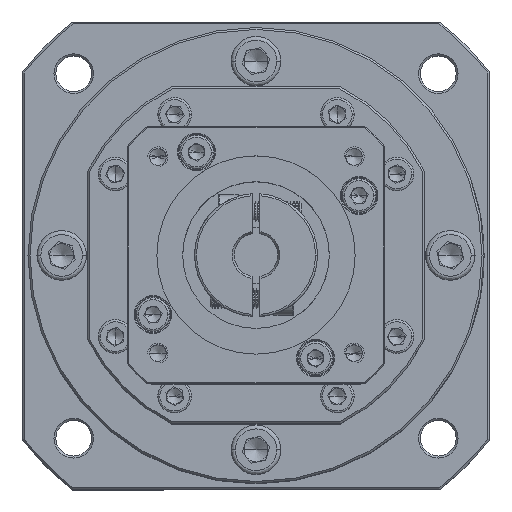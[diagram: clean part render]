
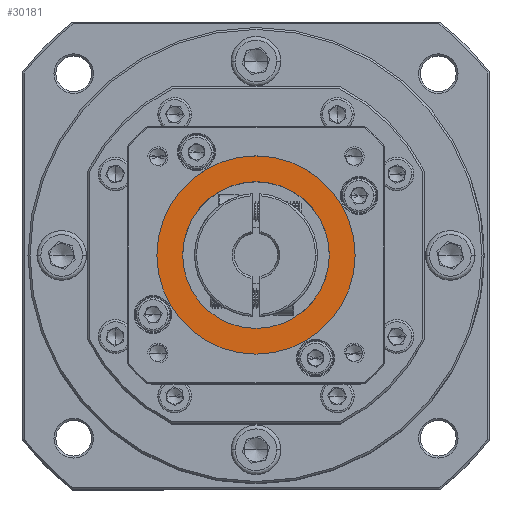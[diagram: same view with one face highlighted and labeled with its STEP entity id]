
A CAD part, top view. The second image highlights one B-rep face of the part: STEP entity #30181.
In plain terms, the highlighted planar face has unit normal (0, 0, 1).
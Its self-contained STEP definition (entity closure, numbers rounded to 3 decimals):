
#31 = CIRCLE ( 'NONE', #89420, 25. ) ;
#4277 = CARTESIAN_POINT ( 'NONE',  ( -63.336, 32.367, 10.795 ) ) ;
#6012 = CARTESIAN_POINT ( 'NONE',  ( -63.336, 32.367, 10.795 ) ) ;
#6287 = VERTEX_POINT ( 'NONE', #57866 ) ;
#6555 = EDGE_LOOP ( 'NONE', ( #84300, #13814 ) ) ;
#10111 = FACE_BOUND ( 'NONE', #66854, .T. ) ;
#10768 = VERTEX_POINT ( 'NONE', #55899 ) ;
#13448 = DIRECTION ( 'NONE',  ( 1., 0., 0. ) ) ;
#13814 = ORIENTED_EDGE ( 'NONE', *, *, #97114, .T. ) ;
#15183 = DIRECTION ( 'NONE',  ( 1., 0., 0. ) ) ;
#20610 = CARTESIAN_POINT ( 'NONE',  ( -63.336, 32.367, 10.795 ) ) ;
#22212 = EDGE_CURVE ( 'NONE', #37699, #10768, #55376, .T. ) ;
#22634 = CARTESIAN_POINT ( 'NONE',  ( -81.836, 32.367, 10.795 ) ) ;
#25117 = AXIS2_PLACEMENT_3D ( 'NONE', #4277, #68158, #13448 ) ;
#29807 = DIRECTION ( 'NONE',  ( 1., 0., 0. ) ) ;
#30181 = ADVANCED_FACE ( 'NONE', ( #80183, #10111 ), #115069, .T. ) ;
#35252 = DIRECTION ( 'NONE',  ( 0., 0., 1. ) ) ;
#37699 = VERTEX_POINT ( 'NONE', #22634 ) ;
#42027 = ORIENTED_EDGE ( 'NONE', *, *, #82389, .T. ) ;
#52416 = CARTESIAN_POINT ( 'NONE',  ( -63.336, 32.367, 10.795 ) ) ;
#55376 = CIRCLE ( 'NONE', #94194, 18.5 ) ;
#55899 = CARTESIAN_POINT ( 'NONE',  ( -44.836, 32.367, 10.795 ) ) ;
#57866 = CARTESIAN_POINT ( 'NONE',  ( -38.336, 32.367, 10.795 ) ) ;
#61648 = DIRECTION ( 'NONE',  ( 1., 0., 0. ) ) ;
#63042 = CIRCLE ( 'NONE', #107115, 25. ) ;
#66854 = EDGE_LOOP ( 'NONE', ( #42027, #92260 ) ) ;
#68022 = CIRCLE ( 'NONE', #25117, 18.5 ) ;
#68158 = DIRECTION ( 'NONE',  ( 0., 0., -1. ) ) ;
#69870 = DIRECTION ( 'NONE',  ( 0., 0., 1. ) ) ;
#74805 = VERTEX_POINT ( 'NONE', #96388 ) ;
#80183 = FACE_OUTER_BOUND ( 'NONE', #6555, .T. ) ;
#82389 = EDGE_CURVE ( 'NONE', #10768, #37699, #68022, .T. ) ;
#84300 = ORIENTED_EDGE ( 'NONE', *, *, #87059, .T. ) ;
#84618 = DIRECTION ( 'NONE',  ( 0., 0., -1. ) ) ;
#87059 = EDGE_CURVE ( 'NONE', #6287, #74805, #31, .T. ) ;
#89420 = AXIS2_PLACEMENT_3D ( 'NONE', #52416, #116395, #61648 ) ;
#90003 = CARTESIAN_POINT ( 'NONE',  ( -63.336, 32.367, 10.795 ) ) ;
#92260 = ORIENTED_EDGE ( 'NONE', *, *, #22212, .T. ) ;
#94194 = AXIS2_PLACEMENT_3D ( 'NONE', #20610, #84618, #29807 ) ;
#96388 = CARTESIAN_POINT ( 'NONE',  ( -88.336, 32.367, 10.795 ) ) ;
#96844 = AXIS2_PLACEMENT_3D ( 'NONE', #6012, #69870, #15183 ) ;
#97114 = EDGE_CURVE ( 'NONE', #74805, #6287, #63042, .T. ) ;
#99175 = DIRECTION ( 'NONE',  ( 1., 0., 0. ) ) ;
#107115 = AXIS2_PLACEMENT_3D ( 'NONE', #90003, #35252, #99175 ) ;
#115069 = PLANE ( 'NONE',  #96844 ) ;
#116395 = DIRECTION ( 'NONE',  ( 0., 0., 1. ) ) ;
